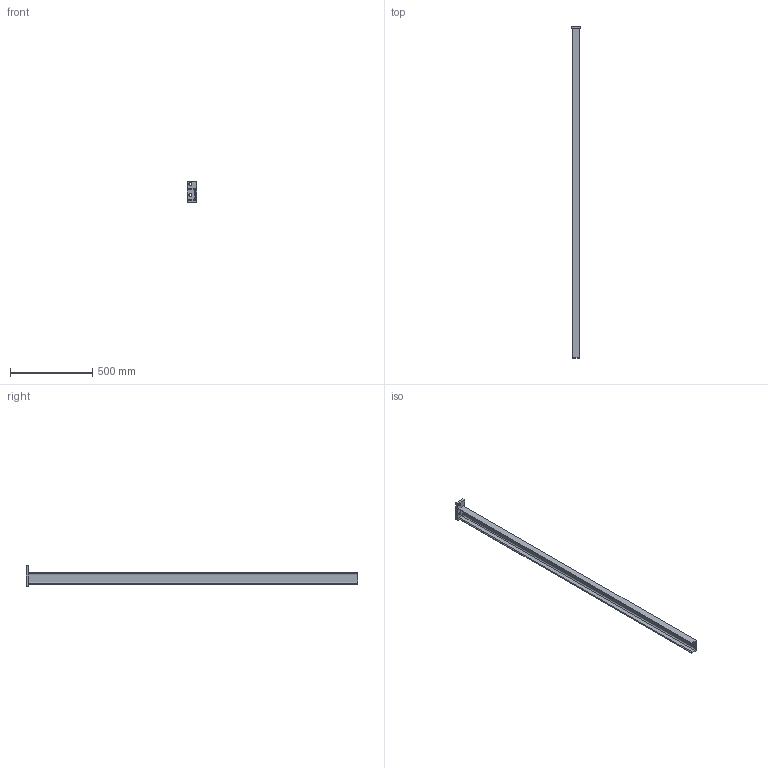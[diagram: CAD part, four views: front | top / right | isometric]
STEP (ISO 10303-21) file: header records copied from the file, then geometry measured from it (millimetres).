
FILE_DESCRIPTION(/* description */ (''),/* implementation_level */ '2;1');
FILE_NAME(/* name */ 'Channel-SS-754057.step',/* time_stamp */ '2023-10-14T18:37:53+09:00',/* author */ (''),/* organization */ (''),/* preprocessor_version */ 'ST-DEVELOPER v20',/* originating_system */ 'Autodesk Translation Framework v12.14.0.127',/* authorisation */ '');
FILE_SCHEMA (('AUTOMOTIVE_DESIGN { 1 0 10303 214 3 1 1 }'));
Length unit declared in the file: millimetre
Products named in the file (2): Channel-75or80; Channel-steel_75x40x5x7
Assembly tree (1 placements, depth 2):
  Channel-75or80
    Channel-steel_75x40x5x7
Bounding box: 60 x 2016 x 125 mm (x, y, z)
Volume: 1875373.7 mm3; surface area: 595003.2 mm2
Topology: 2 solids, 2 shells, 22 faces, 54 edges, 36 vertices
Faces by surface type: plane 16, cylinder 6
Full cylindrical faces by diameter (mm): 18 x2
Entity records: 719 total; most frequent: DIRECTION 116, CARTESIAN_POINT 115, ORIENTED_EDGE 108, EDGE_CURVE 54, LINE 42, VECTOR 42, AXIS2_PLACEMENT_3D 37, VERTEX_POINT 36
